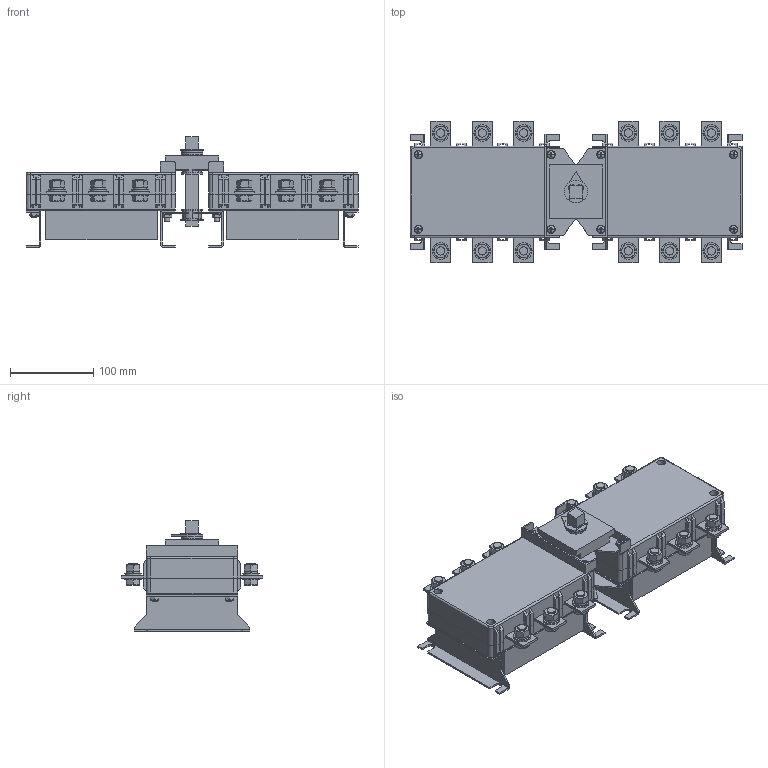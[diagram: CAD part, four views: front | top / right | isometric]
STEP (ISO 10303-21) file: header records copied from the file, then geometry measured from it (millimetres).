
FILE_DESCRIPTION((''),'2;1');
FILE_NAME('200-3S_ASM','2021-05-07T',('wangpeng'),(''),'PRO/ENGINEER BY PARAMETRIC TECHNOLOGY CORPORATION, 2009460','PRO/ENGINEER BY PARAMETRIC TECHNOLOGY CORPORATION, 2009460','');
FILE_SCHEMA(('AUTOMOTIVE_DESIGN { 1 0 10303 214 1 1 1 1 }'));
Length unit declared in the file: millimetre
Products named in the file (21): SB-200-3S; ZJB-200-3S; CT-200-3S; DB-200-3S; XB-200-3S; ZCB-200-3S; YB-200-3S; PDQ10; TDQ10; LSM10; PDQ6; LDM6; 0LSM6; LMM6; LMM10; ZSJNH40; FKSNH40; ZSJTNH40; ZZ-200-3S; DQM8; 200-3S_ASM
Assembly tree (128 placements, depth 2):
  200-3S_ASM
    SB-200-3S  x2
    ZJB-200-3S  x2
    CT-200-3S  x6
    DB-200-3S  x4
    XB-200-3S  x2
    ZCB-200-3S  x2
    YB-200-3S  x2
    PDQ10  x24
    TDQ10  x12
    LSM10  x12
    PDQ6  x16
    LDM6  x12
    0LSM6  x4
    LMM6  x8
    LMM10  x12
    ZSJNH40
    FKSNH40  x3
    ZSJTNH40
    ZZ-200-3S
    DQM8  x2
Bounding box: 400 x 170 x 133 mm (x, y, z)
Volume: 3152758.8 mm3; surface area: 611070.6 mm2
Topology: 128 solids, 128 shells, 2352 faces, 5761 edges, 3716 vertices
Faces by surface type: plane 1333, cylinder 627, cone 344, sphere 32, torus 16
Entity records: 21236 total; most frequent: CARTESIAN_POINT 3920, DIRECTION 3305, ORIENTED_EDGE 3088, EDGE_CURVE 1544, VECTOR 1111, LINE 1111, AXIS2_PLACEMENT_3D 1097, VERTEX_POINT 1013
